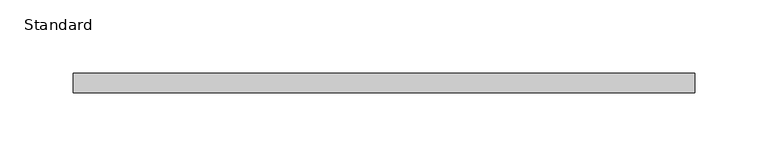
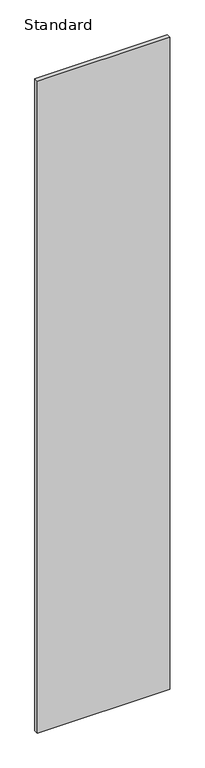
"""IFC4 building model written with IfcOpenShell, lengths in millimetres: furniture geometry, X_Partition-Compact Laminate-Duracube-Rectangular : Standard."""

from ifc_helpers import new_model, si_unit, frame, origin, place, context, project, spatial, polyline, outline, extrude, source, transform, mapped, element, save


def standard_4fdd54ca(model_context):
    return source(origin(), model_context, "Body", "SweptSolid", [
        extrude(outline(polyline([(256.0753264, 0.0), (256.0753264, -13.0), (-166.6746736, -13.0), (-166.6746736, 0.0), (256.0753264, 0.0)])), frame((0.0, 0.0, 200.0), z_axis=(0.0, 0.0, 1.0), x_axis=(1.0, 0.0, 0.0)), (0.0, 0.0, 1.0), 2198.0),
    ])


if __name__ == "__main__":
    model = new_model("IFC4")
    model_context = context("Model", 3, world=origin())
    ifc_project = project(units=[si_unit("LENGTHUNIT", "METRE", prefix="MILLI")], contexts=[model_context])
    site = spatial("IfcSite", under=ifc_project)
    building = spatial("IfcBuilding", under=site)
    placement = place(None, origin())
    standard_shape = standard_4fdd54ca(model_context)
    element("IfcFurniture", 1, ObjectType="X_Partition-Compact Laminate-Duracube-Rectangular : Standard", at=placement, inside=building, context=model_context, shape_type="MappedRepresentation", body=[
        mapped(standard_shape, transform((0.0, 0.0, 0.0), x_axis=(1.0, 0.0, 0.0), y_axis=(0.0, 1.0, 0.0), z_axis=(0.0, 0.0, 1.0))),
    ])
    save(model, "model.ifc")
